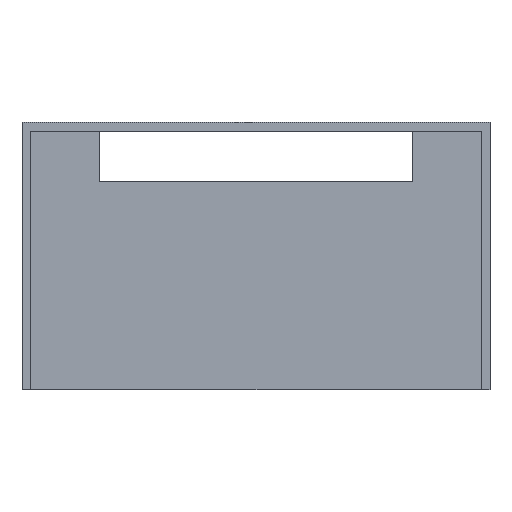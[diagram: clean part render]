
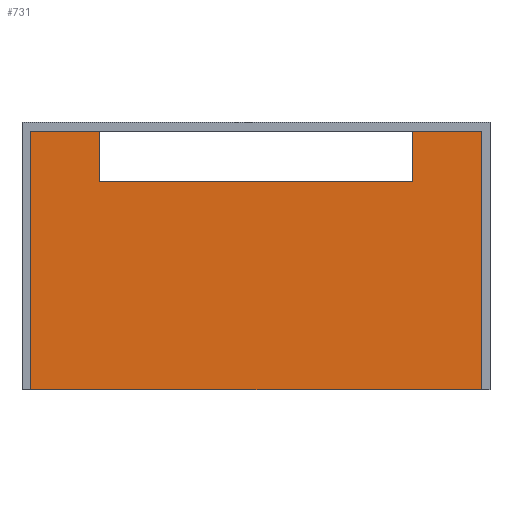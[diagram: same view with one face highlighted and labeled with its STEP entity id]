
A CAD part, front view. The second image highlights one B-rep face of the part: STEP entity #731.
In plain terms, the highlighted planar face has unit normal (0, -1, 0).
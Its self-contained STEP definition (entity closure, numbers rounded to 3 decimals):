
#100 = PLANE('',#101);
#101 = AXIS2_PLACEMENT_3D('',#102,#103,#104);
#102 = CARTESIAN_POINT('',(17.,135.,-89.));
#103 = DIRECTION('',(0.,0.,1.));
#104 = DIRECTION('',(1.,0.,0.));
#338 = PLANE('',#339);
#339 = AXIS2_PLACEMENT_3D('',#340,#341,#342);
#340 = CARTESIAN_POINT('',(23.5,135.,0.5));
#341 = DIRECTION('',(1.,0.,0.));
#342 = DIRECTION('',(0.,0.,-1.));
#366 = PLANE('',#367);
#367 = AXIS2_PLACEMENT_3D('',#368,#369,#370);
#368 = CARTESIAN_POINT('',(23.5,135.,-17.5));
#369 = DIRECTION('',(0.,0.,1.));
#370 = DIRECTION('',(1.,0.,0.));
#392 = PLANE('',#393);
#393 = AXIS2_PLACEMENT_3D('',#394,#395,#396);
#394 = CARTESIAN_POINT('',(131.5,135.,-17.5));
#395 = DIRECTION('',(-1.,0.,0.));
#396 = DIRECTION('',(0.,0.,1.));
#560 = VERTEX_POINT('',#561);
#561 = CARTESIAN_POINT('',(131.5,132.,-17.5));
#582 = EDGE_CURVE('',#560,#583,#585,.T.);
#583 = VERTEX_POINT('',#584);
#584 = CARTESIAN_POINT('',(131.5,132.,0.));
#585 = SURFACE_CURVE('',#586,(#590,#597),.PCURVE_S1.);
#586 = LINE('',#587,#588);
#587 = CARTESIAN_POINT('',(131.5,132.,-17.5));
#588 = VECTOR('',#589,1.);
#589 = DIRECTION('',(0.,0.,1.));
#590 = PCURVE('',#392,#591);
#591 = DEFINITIONAL_REPRESENTATION('',(#592),#596);
#592 = LINE('',#593,#594);
#593 = CARTESIAN_POINT('',(0.,-3.));
#594 = VECTOR('',#595,1.);
#595 = DIRECTION('',(1.,0.));
#596 = ( GEOMETRIC_REPRESENTATION_CONTEXT(2) 
PARAMETRIC_REPRESENTATION_CONTEXT() REPRESENTATION_CONTEXT('2D SPACE',''
  ) );
#597 = PCURVE('',#598,#603);
#598 = PLANE('',#599);
#599 = AXIS2_PLACEMENT_3D('',#600,#601,#602);
#600 = CARTESIAN_POINT('',(0.,132.,3.));
#601 = DIRECTION('',(0.,-1.,0.));
#602 = DIRECTION('',(1.,0.,0.));
#603 = DEFINITIONAL_REPRESENTATION('',(#604),#608);
#604 = LINE('',#605,#606);
#605 = CARTESIAN_POINT('',(131.5,-20.5));
#606 = VECTOR('',#607,1.);
#607 = DIRECTION('',(0.,1.));
#608 = ( GEOMETRIC_REPRESENTATION_CONTEXT(2) 
PARAMETRIC_REPRESENTATION_CONTEXT() REPRESENTATION_CONTEXT('2D SPACE',''
  ) );
#638 = VERTEX_POINT('',#639);
#639 = CARTESIAN_POINT('',(23.5,132.,0.));
#660 = EDGE_CURVE('',#638,#661,#663,.T.);
#661 = VERTEX_POINT('',#662);
#662 = CARTESIAN_POINT('',(23.5,132.,-17.5));
#663 = SURFACE_CURVE('',#664,(#668,#675),.PCURVE_S1.);
#664 = LINE('',#665,#666);
#665 = CARTESIAN_POINT('',(23.5,132.,0.5));
#666 = VECTOR('',#667,1.);
#667 = DIRECTION('',(0.,0.,-1.));
#668 = PCURVE('',#338,#669);
#669 = DEFINITIONAL_REPRESENTATION('',(#670),#674);
#670 = LINE('',#671,#672);
#671 = CARTESIAN_POINT('',(0.,-3.));
#672 = VECTOR('',#673,1.);
#673 = DIRECTION('',(1.,0.));
#674 = ( GEOMETRIC_REPRESENTATION_CONTEXT(2) 
PARAMETRIC_REPRESENTATION_CONTEXT() REPRESENTATION_CONTEXT('2D SPACE',''
  ) );
#675 = PCURVE('',#598,#676);
#676 = DEFINITIONAL_REPRESENTATION('',(#677),#681);
#677 = LINE('',#678,#679);
#678 = CARTESIAN_POINT('',(23.5,-2.5));
#679 = VECTOR('',#680,1.);
#680 = DIRECTION('',(0.,-1.));
#681 = ( GEOMETRIC_REPRESENTATION_CONTEXT(2) 
PARAMETRIC_REPRESENTATION_CONTEXT() REPRESENTATION_CONTEXT('2D SPACE',''
  ) );
#709 = EDGE_CURVE('',#661,#560,#710,.T.);
#710 = SURFACE_CURVE('',#711,(#715,#722),.PCURVE_S1.);
#711 = LINE('',#712,#713);
#712 = CARTESIAN_POINT('',(23.5,132.,-17.5));
#713 = VECTOR('',#714,1.);
#714 = DIRECTION('',(1.,0.,0.));
#715 = PCURVE('',#366,#716);
#716 = DEFINITIONAL_REPRESENTATION('',(#717),#721);
#717 = LINE('',#718,#719);
#718 = CARTESIAN_POINT('',(0.,-3.));
#719 = VECTOR('',#720,1.);
#720 = DIRECTION('',(1.,0.));
#721 = ( GEOMETRIC_REPRESENTATION_CONTEXT(2) 
PARAMETRIC_REPRESENTATION_CONTEXT() REPRESENTATION_CONTEXT('2D SPACE',''
  ) );
#722 = PCURVE('',#598,#723);
#723 = DEFINITIONAL_REPRESENTATION('',(#724),#728);
#724 = LINE('',#725,#726);
#725 = CARTESIAN_POINT('',(23.5,-20.5));
#726 = VECTOR('',#727,1.);
#727 = DIRECTION('',(1.,0.));
#728 = ( GEOMETRIC_REPRESENTATION_CONTEXT(2) 
PARAMETRIC_REPRESENTATION_CONTEXT() REPRESENTATION_CONTEXT('2D SPACE',''
  ) );
#731 = ADVANCED_FACE('',(#732),#598,.T.);
#732 = FACE_BOUND('',#733,.T.);
#733 = EDGE_LOOP('',(#734,#762,#790,#813,#841,#862,#863,#864));
#734 = ORIENTED_EDGE('',*,*,#735,.T.);
#735 = EDGE_CURVE('',#638,#736,#738,.T.);
#736 = VERTEX_POINT('',#737);
#737 = CARTESIAN_POINT('',(0.,132.,0.));
#738 = SURFACE_CURVE('',#739,(#743,#750),.PCURVE_S1.);
#739 = LINE('',#740,#741);
#740 = CARTESIAN_POINT('',(155.,132.,0.));
#741 = VECTOR('',#742,1.);
#742 = DIRECTION('',(-1.,0.,0.));
#743 = PCURVE('',#598,#744);
#744 = DEFINITIONAL_REPRESENTATION('',(#745),#749);
#745 = LINE('',#746,#747);
#746 = CARTESIAN_POINT('',(155.,-3.));
#747 = VECTOR('',#748,1.);
#748 = DIRECTION('',(-1.,0.));
#749 = ( GEOMETRIC_REPRESENTATION_CONTEXT(2) 
PARAMETRIC_REPRESENTATION_CONTEXT() REPRESENTATION_CONTEXT('2D SPACE',''
  ) );
#750 = PCURVE('',#751,#756);
#751 = PLANE('',#752);
#752 = AXIS2_PLACEMENT_3D('',#753,#754,#755);
#753 = CARTESIAN_POINT('',(0.,0.,0.));
#754 = DIRECTION('',(0.,0.,-1.));
#755 = DIRECTION('',(-1.,0.,0.));
#756 = DEFINITIONAL_REPRESENTATION('',(#757),#761);
#757 = LINE('',#758,#759);
#758 = CARTESIAN_POINT('',(-155.,132.));
#759 = VECTOR('',#760,1.);
#760 = DIRECTION('',(1.,0.));
#761 = ( GEOMETRIC_REPRESENTATION_CONTEXT(2) 
PARAMETRIC_REPRESENTATION_CONTEXT() REPRESENTATION_CONTEXT('2D SPACE',''
  ) );
#762 = ORIENTED_EDGE('',*,*,#763,.T.);
#763 = EDGE_CURVE('',#736,#764,#766,.T.);
#764 = VERTEX_POINT('',#765);
#765 = CARTESIAN_POINT('',(0.,132.,-89.));
#766 = SURFACE_CURVE('',#767,(#771,#778),.PCURVE_S1.);
#767 = LINE('',#768,#769);
#768 = CARTESIAN_POINT('',(0.,132.,3.));
#769 = VECTOR('',#770,1.);
#770 = DIRECTION('',(-0.,-0.,-1.));
#771 = PCURVE('',#598,#772);
#772 = DEFINITIONAL_REPRESENTATION('',(#773),#777);
#773 = LINE('',#774,#775);
#774 = CARTESIAN_POINT('',(0.,0.));
#775 = VECTOR('',#776,1.);
#776 = DIRECTION('',(0.,-1.));
#777 = ( GEOMETRIC_REPRESENTATION_CONTEXT(2) 
PARAMETRIC_REPRESENTATION_CONTEXT() REPRESENTATION_CONTEXT('2D SPACE',''
  ) );
#778 = PCURVE('',#779,#784);
#779 = PLANE('',#780);
#780 = AXIS2_PLACEMENT_3D('',#781,#782,#783);
#781 = CARTESIAN_POINT('',(0.,0.,3.));
#782 = DIRECTION('',(1.,0.,0.));
#783 = DIRECTION('',(0.,1.,0.));
#784 = DEFINITIONAL_REPRESENTATION('',(#785),#789);
#785 = LINE('',#786,#787);
#786 = CARTESIAN_POINT('',(132.,0.));
#787 = VECTOR('',#788,1.);
#788 = DIRECTION('',(0.,-1.));
#789 = ( GEOMETRIC_REPRESENTATION_CONTEXT(2) 
PARAMETRIC_REPRESENTATION_CONTEXT() REPRESENTATION_CONTEXT('2D SPACE',''
  ) );
#790 = ORIENTED_EDGE('',*,*,#791,.T.);
#791 = EDGE_CURVE('',#764,#792,#794,.T.);
#792 = VERTEX_POINT('',#793);
#793 = CARTESIAN_POINT('',(155.,132.,-89.));
#794 = SURFACE_CURVE('',#795,(#799,#806),.PCURVE_S1.);
#795 = LINE('',#796,#797);
#796 = CARTESIAN_POINT('',(0.,132.,-89.));
#797 = VECTOR('',#798,1.);
#798 = DIRECTION('',(1.,0.,0.));
#799 = PCURVE('',#598,#800);
#800 = DEFINITIONAL_REPRESENTATION('',(#801),#805);
#801 = LINE('',#802,#803);
#802 = CARTESIAN_POINT('',(0.,-92.));
#803 = VECTOR('',#804,1.);
#804 = DIRECTION('',(1.,0.));
#805 = ( GEOMETRIC_REPRESENTATION_CONTEXT(2) 
PARAMETRIC_REPRESENTATION_CONTEXT() REPRESENTATION_CONTEXT('2D SPACE',''
  ) );
#806 = PCURVE('',#100,#807);
#807 = DEFINITIONAL_REPRESENTATION('',(#808),#812);
#808 = LINE('',#809,#810);
#809 = CARTESIAN_POINT('',(-17.,-3.));
#810 = VECTOR('',#811,1.);
#811 = DIRECTION('',(1.,0.));
#812 = ( GEOMETRIC_REPRESENTATION_CONTEXT(2) 
PARAMETRIC_REPRESENTATION_CONTEXT() REPRESENTATION_CONTEXT('2D SPACE',''
  ) );
#813 = ORIENTED_EDGE('',*,*,#814,.F.);
#814 = EDGE_CURVE('',#815,#792,#817,.T.);
#815 = VERTEX_POINT('',#816);
#816 = CARTESIAN_POINT('',(155.,132.,0.));
#817 = SURFACE_CURVE('',#818,(#822,#829),.PCURVE_S1.);
#818 = LINE('',#819,#820);
#819 = CARTESIAN_POINT('',(155.,132.,3.));
#820 = VECTOR('',#821,1.);
#821 = DIRECTION('',(-0.,-0.,-1.));
#822 = PCURVE('',#598,#823);
#823 = DEFINITIONAL_REPRESENTATION('',(#824),#828);
#824 = LINE('',#825,#826);
#825 = CARTESIAN_POINT('',(155.,0.));
#826 = VECTOR('',#827,1.);
#827 = DIRECTION('',(0.,-1.));
#828 = ( GEOMETRIC_REPRESENTATION_CONTEXT(2) 
PARAMETRIC_REPRESENTATION_CONTEXT() REPRESENTATION_CONTEXT('2D SPACE',''
  ) );
#829 = PCURVE('',#830,#835);
#830 = PLANE('',#831);
#831 = AXIS2_PLACEMENT_3D('',#832,#833,#834);
#832 = CARTESIAN_POINT('',(155.,132.,3.));
#833 = DIRECTION('',(-1.,0.,0.));
#834 = DIRECTION('',(0.,-1.,0.));
#835 = DEFINITIONAL_REPRESENTATION('',(#836),#840);
#836 = LINE('',#837,#838);
#837 = CARTESIAN_POINT('',(0.,0.));
#838 = VECTOR('',#839,1.);
#839 = DIRECTION('',(0.,-1.));
#840 = ( GEOMETRIC_REPRESENTATION_CONTEXT(2) 
PARAMETRIC_REPRESENTATION_CONTEXT() REPRESENTATION_CONTEXT('2D SPACE',''
  ) );
#841 = ORIENTED_EDGE('',*,*,#842,.T.);
#842 = EDGE_CURVE('',#815,#583,#843,.T.);
#843 = SURFACE_CURVE('',#844,(#848,#855),.PCURVE_S1.);
#844 = LINE('',#845,#846);
#845 = CARTESIAN_POINT('',(155.,132.,0.));
#846 = VECTOR('',#847,1.);
#847 = DIRECTION('',(-1.,0.,0.));
#848 = PCURVE('',#598,#849);
#849 = DEFINITIONAL_REPRESENTATION('',(#850),#854);
#850 = LINE('',#851,#852);
#851 = CARTESIAN_POINT('',(155.,-3.));
#852 = VECTOR('',#853,1.);
#853 = DIRECTION('',(-1.,0.));
#854 = ( GEOMETRIC_REPRESENTATION_CONTEXT(2) 
PARAMETRIC_REPRESENTATION_CONTEXT() REPRESENTATION_CONTEXT('2D SPACE',''
  ) );
#855 = PCURVE('',#751,#856);
#856 = DEFINITIONAL_REPRESENTATION('',(#857),#861);
#857 = LINE('',#858,#859);
#858 = CARTESIAN_POINT('',(-155.,132.));
#859 = VECTOR('',#860,1.);
#860 = DIRECTION('',(1.,0.));
#861 = ( GEOMETRIC_REPRESENTATION_CONTEXT(2) 
PARAMETRIC_REPRESENTATION_CONTEXT() REPRESENTATION_CONTEXT('2D SPACE',''
  ) );
#862 = ORIENTED_EDGE('',*,*,#582,.F.);
#863 = ORIENTED_EDGE('',*,*,#709,.F.);
#864 = ORIENTED_EDGE('',*,*,#660,.F.);
